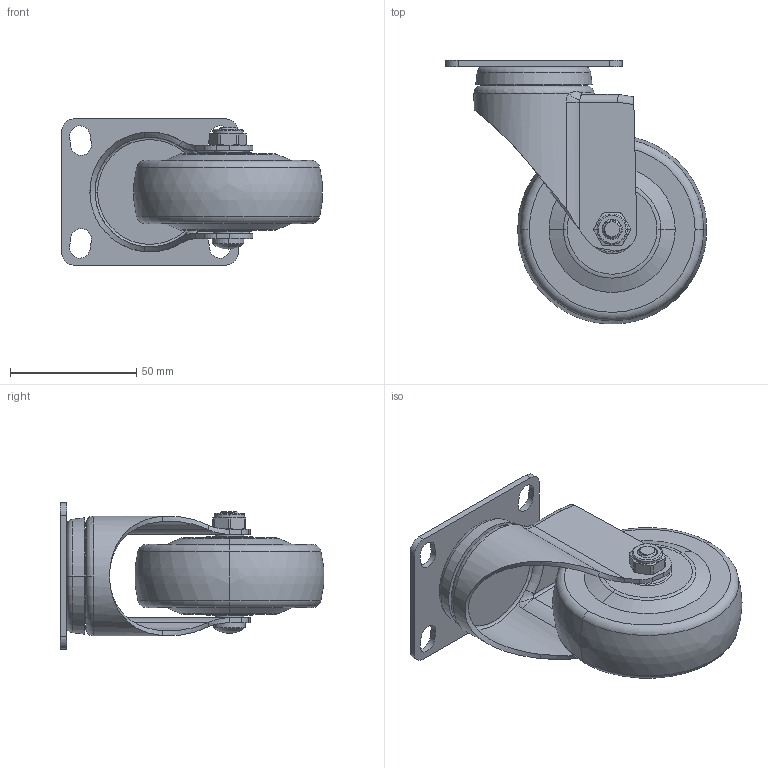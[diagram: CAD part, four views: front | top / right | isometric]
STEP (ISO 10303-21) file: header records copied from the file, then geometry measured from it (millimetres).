
FILE_DESCRIPTION((''),'2;1');
FILE_NAME('361125-3625-64_ASM','2020-01-03T',('L'),(''),'PRO/ENGINEER BY PARAMETRIC TECHNOLOGY CORPORATION, 2010280','PRO/ENGINEER BY PARAMETRIC TECHNOLOGY CORPORATION, 2010280','');
FILE_SCHEMA(('CONFIG_CONTROL_DESIGN'));
Length unit declared in the file: millimetre
Products named in the file (5): 36113; 363-964; 350-33A; 300-34; 361125-3625-64_ASM
Assembly tree (4 placements, depth 2):
  361125-3625-64_ASM
    36113
    363-964
    350-33A
    300-34
Bounding box: 103.36 x 104.36 x 58 mm (x, y, z)
Volume: 150849.9 mm3; surface area: 40980.7 mm2
Topology: 4 solids, 4 shells, 217 faces, 535 edges, 336 vertices
Faces by surface type: cylinder 78, plane 55, bspline 34, torus 28, cone 20, sphere 2
Entity records: 11150 total; most frequent: CARTESIAN_POINT 6078, ORIENTED_EDGE 1066, DIRECTION 984, EDGE_CURVE 533, AXIS2_PLACEMENT_3D 395, VERTEX_POINT 336, EDGE_LOOP 245, FACE_OUTER_BOUND 217
